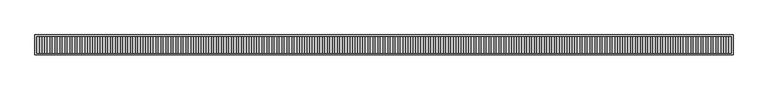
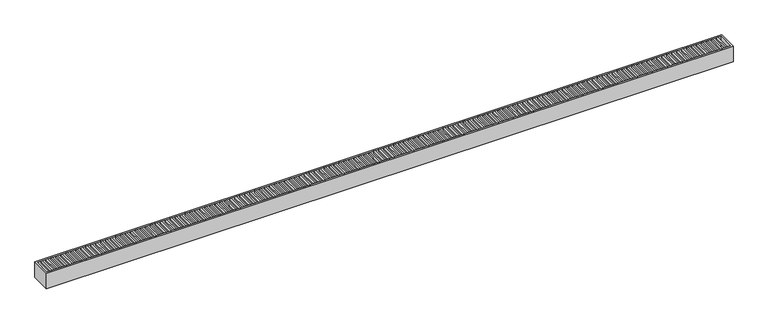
"""IFC4 building model written with IfcOpenShell, lengths in millimetres: flow terminal geometry, ARQ-RE-EX-Ace : L=8.36m."""

from ifc_helpers import new_model, si_unit, frame, origin, place, context, project, spatial, polyline, outline, extrude, source, transform, mapped, element, save


def flow_terminal_b1aadda9(model_context):
    return source(origin(), model_context, "Body", "SweptSolid", [
        extrude(outline(polyline([(4059.5588235, 100.0), (4059.5588235, -100.0), (4039.5588235, -100.0), (4039.5588235, 100.0), (4059.5588235, 100.0)])), frame((0.0, 0.0, -20.0), z_axis=(0.0, 0.0, 1.0), x_axis=(1.0, 0.0, 0.0)), (0.0, 0.0, 1.0), 20.0),
        extrude(outline(polyline([(3999.1176471, 100.0), (3999.1176471, -100.0), (3979.1176471, -100.0), (3979.1176471, 100.0), (3999.1176471, 100.0)])), frame((0.0, 0.0, -20.0), z_axis=(0.0, 0.0, 1.0), x_axis=(1.0, 0.0, 0.0)), (0.0, 0.0, 1.0), 20.0),
        extrude(outline(polyline([(3938.6764706, 100.0), (3938.6764706, -100.0), (3918.6764706, -100.0), (3918.6764706, 100.0), (3938.6764706, 100.0)])), frame((0.0, 0.0, -20.0), z_axis=(0.0, 0.0, 1.0), x_axis=(1.0, 0.0, 0.0)), (0.0, 0.0, 1.0), 20.0),
        extrude(outline(polyline([(3878.2352941, 100.0), (3878.2352941, -100.0), (3858.2352941, -100.0), (3858.2352941, 100.0), (3878.2352941, 100.0)])), frame((0.0, 0.0, -20.0), z_axis=(0.0, 0.0, 1.0), x_axis=(1.0, 0.0, 0.0)), (0.0, 0.0, 1.0), 20.0),
        extrude(outline(polyline([(3817.7941176, 100.0), (3817.7941176, -100.0), (3797.7941176, -100.0), (3797.7941176, 100.0), (3817.7941176, 100.0)])), frame((0.0, 0.0, -20.0), z_axis=(0.0, 0.0, 1.0), x_axis=(1.0, 0.0, 0.0)), (0.0, 0.0, 1.0), 20.0),
        extrude(outline(polyline([(3757.3529412, 100.0), (3757.3529412, -100.0), (3737.3529412, -100.0), (3737.3529412, 100.0), (3757.3529412, 100.0)])), frame((0.0, 0.0, -20.0), z_axis=(0.0, 0.0, 1.0), x_axis=(1.0, 0.0, 0.0)), (0.0, 0.0, 1.0), 20.0),
        extrude(outline(polyline([(3696.9117647, 100.0), (3696.9117647, -100.0), (3676.9117647, -100.0), (3676.9117647, 100.0), (3696.9117647, 100.0)])), frame((0.0, 0.0, -20.0), z_axis=(0.0, 0.0, 1.0), x_axis=(1.0, 0.0, 0.0)), (0.0, 0.0, 1.0), 20.0),
        extrude(outline(polyline([(3636.4705882, 100.0), (3636.4705882, -100.0), (3616.4705882, -100.0), (3616.4705882, 100.0), (3636.4705882, 100.0)])), frame((0.0, 0.0, -20.0), z_axis=(0.0, 0.0, 1.0), x_axis=(1.0, 0.0, 0.0)), (0.0, 0.0, 1.0), 20.0),
        extrude(outline(polyline([(3576.0294118, 100.0), (3576.0294118, -100.0), (3556.0294118, -100.0), (3556.0294118, 100.0), (3576.0294118, 100.0)])), frame((0.0, 0.0, -20.0), z_axis=(0.0, 0.0, 1.0), x_axis=(1.0, 0.0, 0.0)), (0.0, 0.0, 1.0), 20.0),
        extrude(outline(polyline([(3515.5882353, 100.0), (3515.5882353, -100.0), (3495.5882353, -100.0), (3495.5882353, 100.0), (3515.5882353, 100.0)])), frame((0.0, 0.0, -20.0), z_axis=(0.0, 0.0, 1.0), x_axis=(1.0, 0.0, 0.0)), (0.0, 0.0, 1.0), 20.0),
        extrude(outline(polyline([(3455.1470588, 100.0), (3455.1470588, -100.0), (3435.1470588, -100.0), (3435.1470588, 100.0), (3455.1470588, 100.0)])), frame((0.0, 0.0, -20.0), z_axis=(0.0, 0.0, 1.0), x_axis=(1.0, 0.0, 0.0)), (0.0, 0.0, 1.0), 20.0),
        extrude(outline(polyline([(3394.7058824, 100.0), (3394.7058824, -100.0), (3374.7058824, -100.0), (3374.7058824, 100.0), (3394.7058824, 100.0)])), frame((0.0, 0.0, -20.0), z_axis=(0.0, 0.0, 1.0), x_axis=(1.0, 0.0, 0.0)), (0.0, 0.0, 1.0), 20.0),
        extrude(outline(polyline([(3334.2647059, 100.0), (3334.2647059, -100.0), (3314.2647059, -100.0), (3314.2647059, 100.0), (3334.2647059, 100.0)])), frame((0.0, 0.0, -20.0), z_axis=(0.0, 0.0, 1.0), x_axis=(1.0, 0.0, 0.0)), (0.0, 0.0, 1.0), 20.0),
        extrude(outline(polyline([(3273.8235294, 100.0), (3273.8235294, -100.0), (3253.8235294, -100.0), (3253.8235294, 100.0), (3273.8235294, 100.0)])), frame((0.0, 0.0, -20.0), z_axis=(0.0, 0.0, 1.0), x_axis=(1.0, 0.0, 0.0)), (0.0, 0.0, 1.0), 20.0),
        extrude(outline(polyline([(3213.3823529, 100.0), (3213.3823529, -100.0), (3193.3823529, -100.0), (3193.3823529, 100.0), (3213.3823529, 100.0)])), frame((0.0, 0.0, -20.0), z_axis=(0.0, 0.0, 1.0), x_axis=(1.0, 0.0, 0.0)), (0.0, 0.0, 1.0), 20.0),
        extrude(outline(polyline([(3152.9411765, 100.0), (3152.9411765, -100.0), (3132.9411765, -100.0), (3132.9411765, 100.0), (3152.9411765, 100.0)])), frame((0.0, 0.0, -20.0), z_axis=(0.0, 0.0, 1.0), x_axis=(1.0, 0.0, 0.0)), (0.0, 0.0, 1.0), 20.0),
        extrude(outline(polyline([(3092.5, 100.0), (3092.5, -100.0), (3072.5, -100.0), (3072.5, 100.0), (3092.5, 100.0)])), frame((0.0, 0.0, -20.0), z_axis=(0.0, 0.0, 1.0), x_axis=(1.0, 0.0, 0.0)), (0.0, 0.0, 1.0), 20.0),
        extrude(outline(polyline([(3032.0588235, 100.0), (3032.0588235, -100.0), (3012.0588235, -100.0), (3012.0588235, 100.0), (3032.0588235, 100.0)])), frame((0.0, 0.0, -20.0), z_axis=(0.0, 0.0, 1.0), x_axis=(1.0, 0.0, 0.0)), (0.0, 0.0, 1.0), 20.0),
        extrude(outline(polyline([(2971.6176471, 100.0), (2971.6176471, -100.0), (2951.6176471, -100.0), (2951.6176471, 100.0), (2971.6176471, 100.0)])), frame((0.0, 0.0, -20.0), z_axis=(0.0, 0.0, 1.0), x_axis=(1.0, 0.0, 0.0)), (0.0, 0.0, 1.0), 20.0),
        extrude(outline(polyline([(2911.1764706, 100.0), (2911.1764706, -100.0), (2891.1764706, -100.0), (2891.1764706, 100.0), (2911.1764706, 100.0)])), frame((0.0, 0.0, -20.0), z_axis=(0.0, 0.0, 1.0), x_axis=(1.0, 0.0, 0.0)), (0.0, 0.0, 1.0), 20.0),
        extrude(outline(polyline([(2850.7352941, 100.0), (2850.7352941, -100.0), (2830.7352941, -100.0), (2830.7352941, 100.0), (2850.7352941, 100.0)])), frame((0.0, 0.0, -20.0), z_axis=(0.0, 0.0, 1.0), x_axis=(1.0, 0.0, 0.0)), (0.0, 0.0, 1.0), 20.0),
        extrude(outline(polyline([(2790.2941176, 100.0), (2790.2941176, -100.0), (2770.2941176, -100.0), (2770.2941176, 100.0), (2790.2941176, 100.0)])), frame((0.0, 0.0, -20.0), z_axis=(0.0, 0.0, 1.0), x_axis=(1.0, 0.0, 0.0)), (0.0, 0.0, 1.0), 20.0),
        extrude(outline(polyline([(2729.8529412, 100.0), (2729.8529412, -100.0), (2709.8529412, -100.0), (2709.8529412, 100.0), (2729.8529412, 100.0)])), frame((0.0, 0.0, -20.0), z_axis=(0.0, 0.0, 1.0), x_axis=(1.0, 0.0, 0.0)), (0.0, 0.0, 1.0), 20.0),
        extrude(outline(polyline([(2669.4117647, 100.0), (2669.4117647, -100.0), (2649.4117647, -100.0), (2649.4117647, 100.0), (2669.4117647, 100.0)])), frame((0.0, 0.0, -20.0), z_axis=(0.0, 0.0, 1.0), x_axis=(1.0, 0.0, 0.0)), (0.0, 0.0, 1.0), 20.0),
        extrude(outline(polyline([(2608.9705882, 100.0), (2608.9705882, -100.0), (2588.9705882, -100.0), (2588.9705882, 100.0), (2608.9705882, 100.0)])), frame((0.0, 0.0, -20.0), z_axis=(0.0, 0.0, 1.0), x_axis=(1.0, 0.0, 0.0)), (0.0, 0.0, 1.0), 20.0),
        extrude(outline(polyline([(2548.5294118, 100.0), (2548.5294118, -100.0), (2528.5294118, -100.0), (2528.5294118, 100.0), (2548.5294118, 100.0)])), frame((0.0, 0.0, -20.0), z_axis=(0.0, 0.0, 1.0), x_axis=(1.0, 0.0, 0.0)), (0.0, 0.0, 1.0), 20.0),
        extrude(outline(polyline([(2488.0882353, 100.0), (2488.0882353, -100.0), (2468.0882353, -100.0), (2468.0882353, 100.0), (2488.0882353, 100.0)])), frame((0.0, 0.0, -20.0), z_axis=(0.0, 0.0, 1.0), x_axis=(1.0, 0.0, 0.0)), (0.0, 0.0, 1.0), 20.0),
        extrude(outline(polyline([(2427.6470588, 100.0), (2427.6470588, -100.0), (2407.6470588, -100.0), (2407.6470588, 100.0), (2427.6470588, 100.0)])), frame((0.0, 0.0, -20.0), z_axis=(0.0, 0.0, 1.0), x_axis=(1.0, 0.0, 0.0)), (0.0, 0.0, 1.0), 20.0),
        extrude(outline(polyline([(2367.2058824, 100.0), (2367.2058824, -100.0), (2347.2058824, -100.0), (2347.2058824, 100.0), (2367.2058824, 100.0)])), frame((0.0, 0.0, -20.0), z_axis=(0.0, 0.0, 1.0), x_axis=(1.0, 0.0, 0.0)), (0.0, 0.0, 1.0), 20.0),
        extrude(outline(polyline([(2306.7647059, 100.0), (2306.7647059, -100.0), (2286.7647059, -100.0), (2286.7647059, 100.0), (2306.7647059, 100.0)])), frame((0.0, 0.0, -20.0), z_axis=(0.0, 0.0, 1.0), x_axis=(1.0, 0.0, 0.0)), (0.0, 0.0, 1.0), 20.0),
        extrude(outline(polyline([(2246.3235294, 100.0), (2246.3235294, -100.0), (2226.3235294, -100.0), (2226.3235294, 100.0), (2246.3235294, 100.0)])), frame((0.0, 0.0, -20.0), z_axis=(0.0, 0.0, 1.0), x_axis=(1.0, 0.0, 0.0)), (0.0, 0.0, 1.0), 20.0),
        extrude(outline(polyline([(2185.8823529, 100.0), (2185.8823529, -100.0), (2165.8823529, -100.0), (2165.8823529, 100.0), (2185.8823529, 100.0)])), frame((0.0, 0.0, -20.0), z_axis=(0.0, 0.0, 1.0), x_axis=(1.0, 0.0, 0.0)), (0.0, 0.0, 1.0), 20.0),
        extrude(outline(polyline([(2125.4411765, 100.0), (2125.4411765, -100.0), (2105.4411765, -100.0), (2105.4411765, 100.0), (2125.4411765, 100.0)])), frame((0.0, 0.0, -20.0), z_axis=(0.0, 0.0, 1.0), x_axis=(1.0, 0.0, 0.0)), (0.0, 0.0, 1.0), 20.0),
        extrude(outline(polyline([(2065.0, 100.0), (2065.0, -100.0), (2045.0, -100.0), (2045.0, 100.0), (2065.0, 100.0)])), frame((0.0, 0.0, -20.0), z_axis=(0.0, 0.0, 1.0), x_axis=(1.0, 0.0, 0.0)), (0.0, 0.0, 1.0), 20.0),
        extrude(outline(polyline([(2004.5588235, 100.0), (2004.5588235, -100.0), (1984.5588235, -100.0), (1984.5588235, 100.0), (2004.5588235, 100.0)])), frame((0.0, 0.0, -20.0), z_axis=(0.0, 0.0, 1.0), x_axis=(1.0, 0.0, 0.0)), (0.0, 0.0, 1.0), 20.0),
        extrude(outline(polyline([(1944.1176471, 100.0), (1944.1176471, -100.0), (1924.1176471, -100.0), (1924.1176471, 100.0), (1944.1176471, 100.0)])), frame((0.0, 0.0, -20.0), z_axis=(0.0, 0.0, 1.0), x_axis=(1.0, 0.0, 0.0)), (0.0, 0.0, 1.0), 20.0),
        extrude(outline(polyline([(1883.6764706, 100.0), (1883.6764706, -100.0), (1863.6764706, -100.0), (1863.6764706, 100.0), (1883.6764706, 100.0)])), frame((0.0, 0.0, -20.0), z_axis=(0.0, 0.0, 1.0), x_axis=(1.0, 0.0, 0.0)), (0.0, 0.0, 1.0), 20.0),
        extrude(outline(polyline([(1823.2352941, 100.0), (1823.2352941, -100.0), (1803.2352941, -100.0), (1803.2352941, 100.0), (1823.2352941, 100.0)])), frame((0.0, 0.0, -20.0), z_axis=(0.0, 0.0, 1.0), x_axis=(1.0, 0.0, 0.0)), (0.0, 0.0, 1.0), 20.0),
        extrude(outline(polyline([(1762.7941176, 100.0), (1762.7941176, -100.0), (1742.7941176, -100.0), (1742.7941176, 100.0), (1762.7941176, 100.0)])), frame((0.0, 0.0, -20.0), z_axis=(0.0, 0.0, 1.0), x_axis=(1.0, 0.0, 0.0)), (0.0, 0.0, 1.0), 20.0),
        extrude(outline(polyline([(1702.3529412, 100.0), (1702.3529412, -100.0), (1682.3529412, -100.0), (1682.3529412, 100.0), (1702.3529412, 100.0)])), frame((0.0, 0.0, -20.0), z_axis=(0.0, 0.0, 1.0), x_axis=(1.0, 0.0, 0.0)), (0.0, 0.0, 1.0), 20.0),
        extrude(outline(polyline([(1641.9117647, 100.0), (1641.9117647, -100.0), (1621.9117647, -100.0), (1621.9117647, 100.0), (1641.9117647, 100.0)])), frame((0.0, 0.0, -20.0), z_axis=(0.0, 0.0, 1.0), x_axis=(1.0, 0.0, 0.0)), (0.0, 0.0, 1.0), 20.0),
        extrude(outline(polyline([(1581.4705882, 100.0), (1581.4705882, -100.0), (1561.4705882, -100.0), (1561.4705882, 100.0), (1581.4705882, 100.0)])), frame((0.0, 0.0, -20.0), z_axis=(0.0, 0.0, 1.0), x_axis=(1.0, 0.0, 0.0)), (0.0, 0.0, 1.0), 20.0),
        extrude(outline(polyline([(1521.0294118, 100.0), (1521.0294118, -100.0), (1501.0294118, -100.0), (1501.0294118, 100.0), (1521.0294118, 100.0)])), frame((0.0, 0.0, -20.0), z_axis=(0.0, 0.0, 1.0), x_axis=(1.0, 0.0, 0.0)), (0.0, 0.0, 1.0), 20.0),
        extrude(outline(polyline([(1460.5882353, 100.0), (1460.5882353, -100.0), (1440.5882353, -100.0), (1440.5882353, 100.0), (1460.5882353, 100.0)])), frame((0.0, 0.0, -20.0), z_axis=(0.0, 0.0, 1.0), x_axis=(1.0, 0.0, 0.0)), (0.0, 0.0, 1.0), 20.0),
        extrude(outline(polyline([(1400.1470588, 100.0), (1400.1470588, -100.0), (1380.1470588, -100.0), (1380.1470588, 100.0), (1400.1470588, 100.0)])), frame((0.0, 0.0, -20.0), z_axis=(0.0, 0.0, 1.0), x_axis=(1.0, 0.0, 0.0)), (0.0, 0.0, 1.0), 20.0),
        extrude(outline(polyline([(1339.7058824, 100.0), (1339.7058824, -100.0), (1319.7058824, -100.0), (1319.7058824, 100.0), (1339.7058824, 100.0)])), frame((0.0, 0.0, -20.0), z_axis=(0.0, 0.0, 1.0), x_axis=(1.0, 0.0, 0.0)), (0.0, 0.0, 1.0), 20.0),
        extrude(outline(polyline([(1279.2647059, 100.0), (1279.2647059, -100.0), (1259.2647059, -100.0), (1259.2647059, 100.0), (1279.2647059, 100.0)])), frame((0.0, 0.0, -20.0), z_axis=(0.0, 0.0, 1.0), x_axis=(1.0, 0.0, 0.0)), (0.0, 0.0, 1.0), 20.0),
        extrude(outline(polyline([(1218.8235294, 100.0), (1218.8235294, -100.0), (1198.8235294, -100.0), (1198.8235294, 100.0), (1218.8235294, 100.0)])), frame((0.0, 0.0, -20.0), z_axis=(0.0, 0.0, 1.0), x_axis=(1.0, 0.0, 0.0)), (0.0, 0.0, 1.0), 20.0),
        extrude(outline(polyline([(1158.3823529, 100.0), (1158.3823529, -100.0), (1138.3823529, -100.0), (1138.3823529, 100.0), (1158.3823529, 100.0)])), frame((0.0, 0.0, -20.0), z_axis=(0.0, 0.0, 1.0), x_axis=(1.0, 0.0, 0.0)), (0.0, 0.0, 1.0), 20.0),
        extrude(outline(polyline([(1097.9411765, 100.0), (1097.9411765, -100.0), (1077.9411765, -100.0), (1077.9411765, 100.0), (1097.9411765, 100.0)])), frame((0.0, 0.0, -20.0), z_axis=(0.0, 0.0, 1.0), x_axis=(1.0, 0.0, 0.0)), (0.0, 0.0, 1.0), 20.0),
        extrude(outline(polyline([(1037.5, 100.0), (1037.5, -100.0), (1017.5, -100.0), (1017.5, 100.0), (1037.5, 100.0)])), frame((0.0, 0.0, -20.0), z_axis=(0.0, 0.0, 1.0), x_axis=(1.0, 0.0, 0.0)), (0.0, 0.0, 1.0), 20.0),
        extrude(outline(polyline([(977.0588235, 100.0), (977.0588235, -100.0), (957.0588235, -100.0), (957.0588235, 100.0), (977.0588235, 100.0)])), frame((0.0, 0.0, -20.0), z_axis=(0.0, 0.0, 1.0), x_axis=(1.0, 0.0, 0.0)), (0.0, 0.0, 1.0), 20.0),
        extrude(outline(polyline([(916.6176471, 100.0), (916.6176471, -100.0), (896.6176471, -100.0), (896.6176471, 100.0), (916.6176471, 100.0)])), frame((0.0, 0.0, -20.0), z_axis=(0.0, 0.0, 1.0), x_axis=(1.0, 0.0, 0.0)), (0.0, 0.0, 1.0), 20.0),
        extrude(outline(polyline([(856.1764706, 100.0), (856.1764706, -100.0), (836.1764706, -100.0), (836.1764706, 100.0), (856.1764706, 100.0)])), frame((0.0, 0.0, -20.0), z_axis=(0.0, 0.0, 1.0), x_axis=(1.0, 0.0, 0.0)), (0.0, 0.0, 1.0), 20.0),
        extrude(outline(polyline([(795.7352941, 100.0), (795.7352941, -100.0), (775.7352941, -100.0), (775.7352941, 100.0), (795.7352941, 100.0)])), frame((0.0, 0.0, -20.0), z_axis=(0.0, 0.0, 1.0), x_axis=(1.0, 0.0, 0.0)), (0.0, 0.0, 1.0), 20.0),
        extrude(outline(polyline([(735.2941176, 100.0), (735.2941176, -100.0), (715.2941176, -100.0), (715.2941176, 100.0), (735.2941176, 100.0)])), frame((0.0, 0.0, -20.0), z_axis=(0.0, 0.0, 1.0), x_axis=(1.0, 0.0, 0.0)), (0.0, 0.0, 1.0), 20.0),
        extrude(outline(polyline([(674.8529412, 100.0), (674.8529412, -100.0), (654.8529412, -100.0), (654.8529412, 100.0), (674.8529412, 100.0)])), frame((0.0, 0.0, -20.0), z_axis=(0.0, 0.0, 1.0), x_axis=(1.0, 0.0, 0.0)), (0.0, 0.0, 1.0), 20.0),
        extrude(outline(polyline([(614.4117647, 100.0), (614.4117647, -100.0), (594.4117647, -100.0), (594.4117647, 100.0), (614.4117647, 100.0)])), frame((0.0, 0.0, -20.0), z_axis=(0.0, 0.0, 1.0), x_axis=(1.0, 0.0, 0.0)), (0.0, 0.0, 1.0), 20.0),
        extrude(outline(polyline([(553.9705882, 100.0), (553.9705882, -100.0), (533.9705882, -100.0), (533.9705882, 100.0), (553.9705882, 100.0)])), frame((0.0, 0.0, -20.0), z_axis=(0.0, 0.0, 1.0), x_axis=(1.0, 0.0, 0.0)), (0.0, 0.0, 1.0), 20.0),
        extrude(outline(polyline([(493.5294118, 100.0), (493.5294118, -100.0), (473.5294118, -100.0), (473.5294118, 100.0), (493.5294118, 100.0)])), frame((0.0, 0.0, -20.0), z_axis=(0.0, 0.0, 1.0), x_axis=(1.0, 0.0, 0.0)), (0.0, 0.0, 1.0), 20.0),
        extrude(outline(polyline([(433.0882353, 100.0), (433.0882353, -100.0), (413.0882353, -100.0), (413.0882353, 100.0), (433.0882353, 100.0)])), frame((0.0, 0.0, -20.0), z_axis=(0.0, 0.0, 1.0), x_axis=(1.0, 0.0, 0.0)), (0.0, 0.0, 1.0), 20.0),
        extrude(outline(polyline([(372.6470588, 100.0), (372.6470588, -100.0), (352.6470588, -100.0), (352.6470588, 100.0), (372.6470588, 100.0)])), frame((0.0, 0.0, -20.0), z_axis=(0.0, 0.0, 1.0), x_axis=(1.0, 0.0, 0.0)), (0.0, 0.0, 1.0), 20.0),
        extrude(outline(polyline([(312.2058824, 100.0), (312.2058824, -100.0), (292.2058824, -100.0), (292.2058824, 100.0), (312.2058824, 100.0)])), frame((0.0, 0.0, -20.0), z_axis=(0.0, 0.0, 1.0), x_axis=(1.0, 0.0, 0.0)), (0.0, 0.0, 1.0), 20.0),
        extrude(outline(polyline([(251.7647059, 100.0), (251.7647059, -100.0), (231.7647059, -100.0), (231.7647059, 100.0), (251.7647059, 100.0)])), frame((0.0, 0.0, -20.0), z_axis=(0.0, 0.0, 1.0), x_axis=(1.0, 0.0, 0.0)), (0.0, 0.0, 1.0), 20.0),
        extrude(outline(polyline([(191.3235294, 100.0), (191.3235294, -100.0), (171.3235294, -100.0), (171.3235294, 100.0), (191.3235294, 100.0)])), frame((0.0, 0.0, -20.0), z_axis=(0.0, 0.0, 1.0), x_axis=(1.0, 0.0, 0.0)), (0.0, 0.0, 1.0), 20.0),
        extrude(outline(polyline([(130.8823529, 100.0), (130.8823529, -100.0), (110.8823529, -100.0), (110.8823529, 100.0), (130.8823529, 100.0)])), frame((0.0, 0.0, -20.0), z_axis=(0.0, 0.0, 1.0), x_axis=(1.0, 0.0, 0.0)), (0.0, 0.0, 1.0), 20.0),
        extrude(outline(polyline([(70.4411765, 100.0), (70.4411765, -100.0), (50.4411765, -100.0), (50.4411765, 100.0), (70.4411765, 100.0)])), frame((0.0, 0.0, -20.0), z_axis=(0.0, 0.0, 1.0), x_axis=(1.0, 0.0, 0.0)), (0.0, 0.0, 1.0), 20.0),
        extrude(outline(polyline([(10.0, 100.0), (10.0, -100.0), (-10.0, -100.0), (-10.0, 100.0), (10.0, 100.0)])), frame((0.0, 0.0, -20.0), z_axis=(0.0, 0.0, 1.0), x_axis=(1.0, 0.0, 0.0)), (0.0, 0.0, 1.0), 20.0),
        extrude(outline(polyline([(-50.4411765, 100.0), (-50.4411765, -100.0), (-70.4411765, -100.0), (-70.4411765, 100.0), (-50.4411765, 100.0)])), frame((0.0, 0.0, -20.0), z_axis=(0.0, 0.0, 1.0), x_axis=(1.0, 0.0, 0.0)), (0.0, 0.0, 1.0), 20.0),
        extrude(outline(polyline([(-110.8823529, 100.0), (-110.8823529, -100.0), (-130.8823529, -100.0), (-130.8823529, 100.0), (-110.8823529, 100.0)])), frame((0.0, 0.0, -20.0), z_axis=(0.0, 0.0, 1.0), x_axis=(1.0, 0.0, 0.0)), (0.0, 0.0, 1.0), 20.0),
        extrude(outline(polyline([(-171.3235294, 100.0), (-171.3235294, -100.0), (-191.3235294, -100.0), (-191.3235294, 100.0), (-171.3235294, 100.0)])), frame((0.0, 0.0, -20.0), z_axis=(0.0, 0.0, 1.0), x_axis=(1.0, 0.0, 0.0)), (0.0, 0.0, 1.0), 20.0),
        extrude(outline(polyline([(-231.7647059, 100.0), (-231.7647059, -100.0), (-251.7647059, -100.0), (-251.7647059, 100.0), (-231.7647059, 100.0)])), frame((0.0, 0.0, -20.0), z_axis=(0.0, 0.0, 1.0), x_axis=(1.0, 0.0, 0.0)), (0.0, 0.0, 1.0), 20.0),
        extrude(outline(polyline([(-292.2058824, 100.0), (-292.2058824, -100.0), (-312.2058824, -100.0), (-312.2058824, 100.0), (-292.2058824, 100.0)])), frame((0.0, 0.0, -20.0), z_axis=(0.0, 0.0, 1.0), x_axis=(1.0, 0.0, 0.0)), (0.0, 0.0, 1.0), 20.0),
        extrude(outline(polyline([(-352.6470588, 100.0), (-352.6470588, -100.0), (-372.6470588, -100.0), (-372.6470588, 100.0), (-352.6470588, 100.0)])), frame((0.0, 0.0, -20.0), z_axis=(0.0, 0.0, 1.0), x_axis=(1.0, 0.0, 0.0)), (0.0, 0.0, 1.0), 20.0),
        extrude(outline(polyline([(-413.0882353, 100.0), (-413.0882353, -100.0), (-433.0882353, -100.0), (-433.0882353, 100.0), (-413.0882353, 100.0)])), frame((0.0, 0.0, -20.0), z_axis=(0.0, 0.0, 1.0), x_axis=(1.0, 0.0, 0.0)), (0.0, 0.0, 1.0), 20.0),
        extrude(outline(polyline([(-473.5294118, 100.0), (-473.5294118, -100.0), (-493.5294118, -100.0), (-493.5294118, 100.0), (-473.5294118, 100.0)])), frame((0.0, 0.0, -20.0), z_axis=(0.0, 0.0, 1.0), x_axis=(1.0, 0.0, 0.0)), (0.0, 0.0, 1.0), 20.0),
        extrude(outline(polyline([(-533.9705882, 100.0), (-533.9705882, -100.0), (-553.9705882, -100.0), (-553.9705882, 100.0), (-533.9705882, 100.0)])), frame((0.0, 0.0, -20.0), z_axis=(0.0, 0.0, 1.0), x_axis=(1.0, 0.0, 0.0)), (0.0, 0.0, 1.0), 20.0),
        extrude(outline(polyline([(-594.4117647, 100.0), (-594.4117647, -100.0), (-614.4117647, -100.0), (-614.4117647, 100.0), (-594.4117647, 100.0)])), frame((0.0, 0.0, -20.0), z_axis=(0.0, 0.0, 1.0), x_axis=(1.0, 0.0, 0.0)), (0.0, 0.0, 1.0), 20.0),
        extrude(outline(polyline([(-654.8529412, 100.0), (-654.8529412, -100.0), (-674.8529412, -100.0), (-674.8529412, 100.0), (-654.8529412, 100.0)])), frame((0.0, 0.0, -20.0), z_axis=(0.0, 0.0, 1.0), x_axis=(1.0, 0.0, 0.0)), (0.0, 0.0, 1.0), 20.0),
        extrude(outline(polyline([(-715.2941176, 100.0), (-715.2941176, -100.0), (-735.2941176, -100.0), (-735.2941176, 100.0), (-715.2941176, 100.0)])), frame((0.0, 0.0, -20.0), z_axis=(0.0, 0.0, 1.0), x_axis=(1.0, 0.0, 0.0)), (0.0, 0.0, 1.0), 20.0),
        extrude(outline(polyline([(-775.7352941, 100.0), (-775.7352941, -100.0), (-795.7352941, -100.0), (-795.7352941, 100.0), (-775.7352941, 100.0)])), frame((0.0, 0.0, -20.0), z_axis=(0.0, 0.0, 1.0), x_axis=(1.0, 0.0, 0.0)), (0.0, 0.0, 1.0), 20.0),
        extrude(outline(polyline([(-836.1764706, 100.0), (-836.1764706, -100.0), (-856.1764706, -100.0), (-856.1764706, 100.0), (-836.1764706, 100.0)])), frame((0.0, 0.0, -20.0), z_axis=(0.0, 0.0, 1.0), x_axis=(1.0, 0.0, 0.0)), (0.0, 0.0, 1.0), 20.0),
        extrude(outline(polyline([(-896.6176471, 100.0), (-896.6176471, -100.0), (-916.6176471, -100.0), (-916.6176471, 100.0), (-896.6176471, 100.0)])), frame((0.0, 0.0, -20.0), z_axis=(0.0, 0.0, 1.0), x_axis=(1.0, 0.0, 0.0)), (0.0, 0.0, 1.0), 20.0),
        extrude(outline(polyline([(-957.0588235, 100.0), (-957.0588235, -100.0), (-977.0588235, -100.0), (-977.0588235, 100.0), (-957.0588235, 100.0)])), frame((0.0, 0.0, -20.0), z_axis=(0.0, 0.0, 1.0), x_axis=(1.0, 0.0, 0.0)), (0.0, 0.0, 1.0), 20.0),
        extrude(outline(polyline([(-1017.5, 100.0), (-1017.5, -100.0), (-1037.5, -100.0), (-1037.5, 100.0), (-1017.5, 100.0)])), frame((0.0, 0.0, -20.0), z_axis=(0.0, 0.0, 1.0), x_axis=(1.0, 0.0, 0.0)), (0.0, 0.0, 1.0), 20.0),
        extrude(outline(polyline([(-1077.9411765, 100.0), (-1077.9411765, -100.0), (-1097.9411765, -100.0), (-1097.9411765, 100.0), (-1077.9411765, 100.0)])), frame((0.0, 0.0, -20.0), z_axis=(0.0, 0.0, 1.0), x_axis=(1.0, 0.0, 0.0)), (0.0, 0.0, 1.0), 20.0),
        extrude(outline(polyline([(-1138.3823529, 100.0), (-1138.3823529, -100.0), (-1158.3823529, -100.0), (-1158.3823529, 100.0), (-1138.3823529, 100.0)])), frame((0.0, 0.0, -20.0), z_axis=(0.0, 0.0, 1.0), x_axis=(1.0, 0.0, 0.0)), (0.0, 0.0, 1.0), 20.0),
        extrude(outline(polyline([(-1198.8235294, 100.0), (-1198.8235294, -100.0), (-1218.8235294, -100.0), (-1218.8235294, 100.0), (-1198.8235294, 100.0)])), frame((0.0, 0.0, -20.0), z_axis=(0.0, 0.0, 1.0), x_axis=(1.0, 0.0, 0.0)), (0.0, 0.0, 1.0), 20.0),
        extrude(outline(polyline([(-1259.2647059, 100.0), (-1259.2647059, -100.0), (-1279.2647059, -100.0), (-1279.2647059, 100.0), (-1259.2647059, 100.0)])), frame((0.0, 0.0, -20.0), z_axis=(0.0, 0.0, 1.0), x_axis=(1.0, 0.0, 0.0)), (0.0, 0.0, 1.0), 20.0),
        extrude(outline(polyline([(-1319.7058824, 100.0), (-1319.7058824, -100.0), (-1339.7058824, -100.0), (-1339.7058824, 100.0), (-1319.7058824, 100.0)])), frame((0.0, 0.0, -20.0), z_axis=(0.0, 0.0, 1.0), x_axis=(1.0, 0.0, 0.0)), (0.0, 0.0, 1.0), 20.0),
        extrude(outline(polyline([(-1380.1470588, 100.0), (-1380.1470588, -100.0), (-1400.1470588, -100.0), (-1400.1470588, 100.0), (-1380.1470588, 100.0)])), frame((0.0, 0.0, -20.0), z_axis=(0.0, 0.0, 1.0), x_axis=(1.0, 0.0, 0.0)), (0.0, 0.0, 1.0), 20.0),
        extrude(outline(polyline([(-1440.5882353, 100.0), (-1440.5882353, -100.0), (-1460.5882353, -100.0), (-1460.5882353, 100.0), (-1440.5882353, 100.0)])), frame((0.0, 0.0, -20.0), z_axis=(0.0, 0.0, 1.0), x_axis=(1.0, 0.0, 0.0)), (0.0, 0.0, 1.0), 20.0),
        extrude(outline(polyline([(-1501.0294118, 100.0), (-1501.0294118, -100.0), (-1521.0294118, -100.0), (-1521.0294118, 100.0), (-1501.0294118, 100.0)])), frame((0.0, 0.0, -20.0), z_axis=(0.0, 0.0, 1.0), x_axis=(1.0, 0.0, 0.0)), (0.0, 0.0, 1.0), 20.0),
        extrude(outline(polyline([(-1561.4705882, 100.0), (-1561.4705882, -100.0), (-1581.4705882, -100.0), (-1581.4705882, 100.0), (-1561.4705882, 100.0)])), frame((0.0, 0.0, -20.0), z_axis=(0.0, 0.0, 1.0), x_axis=(1.0, 0.0, 0.0)), (0.0, 0.0, 1.0), 20.0),
        extrude(outline(polyline([(-1621.9117647, 100.0), (-1621.9117647, -100.0), (-1641.9117647, -100.0), (-1641.9117647, 100.0), (-1621.9117647, 100.0)])), frame((0.0, 0.0, -20.0), z_axis=(0.0, 0.0, 1.0), x_axis=(1.0, 0.0, 0.0)), (0.0, 0.0, 1.0), 20.0),
        extrude(outline(polyline([(-1682.3529412, 100.0), (-1682.3529412, -100.0), (-1702.3529412, -100.0), (-1702.3529412, 100.0), (-1682.3529412, 100.0)])), frame((0.0, 0.0, -20.0), z_axis=(0.0, 0.0, 1.0), x_axis=(1.0, 0.0, 0.0)), (0.0, 0.0, 1.0), 20.0),
        extrude(outline(polyline([(-1742.7941176, 100.0), (-1742.7941176, -100.0), (-1762.7941176, -100.0), (-1762.7941176, 100.0), (-1742.7941176, 100.0)])), frame((0.0, 0.0, -20.0), z_axis=(0.0, 0.0, 1.0), x_axis=(1.0, 0.0, 0.0)), (0.0, 0.0, 1.0), 20.0),
        extrude(outline(polyline([(-1803.2352941, 100.0), (-1803.2352941, -100.0), (-1823.2352941, -100.0), (-1823.2352941, 100.0), (-1803.2352941, 100.0)])), frame((0.0, 0.0, -20.0), z_axis=(0.0, 0.0, 1.0), x_axis=(1.0, 0.0, 0.0)), (0.0, 0.0, 1.0), 20.0),
        extrude(outline(polyline([(-1863.6764706, 100.0), (-1863.6764706, -100.0), (-1883.6764706, -100.0), (-1883.6764706, 100.0), (-1863.6764706, 100.0)])), frame((0.0, 0.0, -20.0), z_axis=(0.0, 0.0, 1.0), x_axis=(1.0, 0.0, 0.0)), (0.0, 0.0, 1.0), 20.0),
        extrude(outline(polyline([(-1924.1176471, 100.0), (-1924.1176471, -100.0), (-1944.1176471, -100.0), (-1944.1176471, 100.0), (-1924.1176471, 100.0)])), frame((0.0, 0.0, -20.0), z_axis=(0.0, 0.0, 1.0), x_axis=(1.0, 0.0, 0.0)), (0.0, 0.0, 1.0), 20.0),
        extrude(outline(polyline([(-1984.5588235, 100.0), (-1984.5588235, -100.0), (-2004.5588235, -100.0), (-2004.5588235, 100.0), (-1984.5588235, 100.0)])), frame((0.0, 0.0, -20.0), z_axis=(0.0, 0.0, 1.0), x_axis=(1.0, 0.0, 0.0)), (0.0, 0.0, 1.0), 20.0),
        extrude(outline(polyline([(-2045.0, 100.0), (-2045.0, -100.0), (-2065.0, -100.0), (-2065.0, 100.0), (-2045.0, 100.0)])), frame((0.0, 0.0, -20.0), z_axis=(0.0, 0.0, 1.0), x_axis=(1.0, 0.0, 0.0)), (0.0, 0.0, 1.0), 20.0),
        extrude(outline(polyline([(-2105.4411765, 100.0), (-2105.4411765, -100.0), (-2125.4411765, -100.0), (-2125.4411765, 100.0), (-2105.4411765, 100.0)])), frame((0.0, 0.0, -20.0), z_axis=(0.0, 0.0, 1.0), x_axis=(1.0, 0.0, 0.0)), (0.0, 0.0, 1.0), 20.0),
        extrude(outline(polyline([(-2165.8823529, 100.0), (-2165.8823529, -100.0), (-2185.8823529, -100.0), (-2185.8823529, 100.0), (-2165.8823529, 100.0)])), frame((0.0, 0.0, -20.0), z_axis=(0.0, 0.0, 1.0), x_axis=(1.0, 0.0, 0.0)), (0.0, 0.0, 1.0), 20.0),
        extrude(outline(polyline([(-2226.3235294, 100.0), (-2226.3235294, -100.0), (-2246.3235294, -100.0), (-2246.3235294, 100.0), (-2226.3235294, 100.0)])), frame((0.0, 0.0, -20.0), z_axis=(0.0, 0.0, 1.0), x_axis=(1.0, 0.0, 0.0)), (0.0, 0.0, 1.0), 20.0),
        extrude(outline(polyline([(-2286.7647059, 100.0), (-2286.7647059, -100.0), (-2306.7647059, -100.0), (-2306.7647059, 100.0), (-2286.7647059, 100.0)])), frame((0.0, 0.0, -20.0), z_axis=(0.0, 0.0, 1.0), x_axis=(1.0, 0.0, 0.0)), (0.0, 0.0, 1.0), 20.0),
        extrude(outline(polyline([(-2347.2058824, 100.0), (-2347.2058824, -100.0), (-2367.2058824, -100.0), (-2367.2058824, 100.0), (-2347.2058824, 100.0)])), frame((0.0, 0.0, -20.0), z_axis=(0.0, 0.0, 1.0), x_axis=(1.0, 0.0, 0.0)), (0.0, 0.0, 1.0), 20.0),
        extrude(outline(polyline([(-2407.6470588, 100.0), (-2407.6470588, -100.0), (-2427.6470588, -100.0), (-2427.6470588, 100.0), (-2407.6470588, 100.0)])), frame((0.0, 0.0, -20.0), z_axis=(0.0, 0.0, 1.0), x_axis=(1.0, 0.0, 0.0)), (0.0, 0.0, 1.0), 20.0),
        extrude(outline(polyline([(-2468.0882353, 100.0), (-2468.0882353, -100.0), (-2488.0882353, -100.0), (-2488.0882353, 100.0), (-2468.0882353, 100.0)])), frame((0.0, 0.0, -20.0), z_axis=(0.0, 0.0, 1.0), x_axis=(1.0, 0.0, 0.0)), (0.0, 0.0, 1.0), 20.0),
        extrude(outline(polyline([(-2528.5294118, 100.0), (-2528.5294118, -100.0), (-2548.5294118, -100.0), (-2548.5294118, 100.0), (-2528.5294118, 100.0)])), frame((0.0, 0.0, -20.0), z_axis=(0.0, 0.0, 1.0), x_axis=(1.0, 0.0, 0.0)), (0.0, 0.0, 1.0), 20.0),
        extrude(outline(polyline([(-2588.9705882, 100.0), (-2588.9705882, -100.0), (-2608.9705882, -100.0), (-2608.9705882, 100.0), (-2588.9705882, 100.0)])), frame((0.0, 0.0, -20.0), z_axis=(0.0, 0.0, 1.0), x_axis=(1.0, 0.0, 0.0)), (0.0, 0.0, 1.0), 20.0),
        extrude(outline(polyline([(-2649.4117647, 100.0), (-2649.4117647, -100.0), (-2669.4117647, -100.0), (-2669.4117647, 100.0), (-2649.4117647, 100.0)])), frame((0.0, 0.0, -20.0), z_axis=(0.0, 0.0, 1.0), x_axis=(1.0, 0.0, 0.0)), (0.0, 0.0, 1.0), 20.0),
        extrude(outline(polyline([(-2709.8529412, 100.0), (-2709.8529412, -100.0), (-2729.8529412, -100.0), (-2729.8529412, 100.0), (-2709.8529412, 100.0)])), frame((0.0, 0.0, -20.0), z_axis=(0.0, 0.0, 1.0), x_axis=(1.0, 0.0, 0.0)), (0.0, 0.0, 1.0), 20.0),
        extrude(outline(polyline([(-2770.2941176, 100.0), (-2770.2941176, -100.0), (-2790.2941176, -100.0), (-2790.2941176, 100.0), (-2770.2941176, 100.0)])), frame((0.0, 0.0, -20.0), z_axis=(0.0, 0.0, 1.0), x_axis=(1.0, 0.0, 0.0)), (0.0, 0.0, 1.0), 20.0),
        extrude(outline(polyline([(-2830.7352941, 100.0), (-2830.7352941, -100.0), (-2850.7352941, -100.0), (-2850.7352941, 100.0), (-2830.7352941, 100.0)])), frame((0.0, 0.0, -20.0), z_axis=(0.0, 0.0, 1.0), x_axis=(1.0, 0.0, 0.0)), (0.0, 0.0, 1.0), 20.0),
        extrude(outline(polyline([(-2891.1764706, 100.0), (-2891.1764706, -100.0), (-2911.1764706, -100.0), (-2911.1764706, 100.0), (-2891.1764706, 100.0)])), frame((0.0, 0.0, -20.0), z_axis=(0.0, 0.0, 1.0), x_axis=(1.0, 0.0, 0.0)), (0.0, 0.0, 1.0), 20.0),
        extrude(outline(polyline([(-2951.6176471, 100.0), (-2951.6176471, -100.0), (-2971.6176471, -100.0), (-2971.6176471, 100.0), (-2951.6176471, 100.0)])), frame((0.0, 0.0, -20.0), z_axis=(0.0, 0.0, 1.0), x_axis=(1.0, 0.0, 0.0)), (0.0, 0.0, 1.0), 20.0),
        extrude(outline(polyline([(-3012.0588235, 100.0), (-3012.0588235, -100.0), (-3032.0588235, -100.0), (-3032.0588235, 100.0), (-3012.0588235, 100.0)])), frame((0.0, 0.0, -20.0), z_axis=(0.0, 0.0, 1.0), x_axis=(1.0, 0.0, 0.0)), (0.0, 0.0, 1.0), 20.0),
        extrude(outline(polyline([(-3072.5, 100.0), (-3072.5, -100.0), (-3092.5, -100.0), (-3092.5, 100.0), (-3072.5, 100.0)])), frame((0.0, 0.0, -20.0), z_axis=(0.0, 0.0, 1.0), x_axis=(1.0, 0.0, 0.0)), (0.0, 0.0, 1.0), 20.0),
        extrude(outline(polyline([(-3132.9411765, 100.0), (-3132.9411765, -100.0), (-3152.9411765, -100.0), (-3152.9411765, 100.0), (-3132.9411765, 100.0)])), frame((0.0, 0.0, -20.0), z_axis=(0.0, 0.0, 1.0), x_axis=(1.0, 0.0, 0.0)), (0.0, 0.0, 1.0), 20.0),
        extrude(outline(polyline([(-3193.3823529, 100.0), (-3193.3823529, -100.0), (-3213.3823529, -100.0), (-3213.3823529, 100.0), (-3193.3823529, 100.0)])), frame((0.0, 0.0, -20.0), z_axis=(0.0, 0.0, 1.0), x_axis=(1.0, 0.0, 0.0)), (0.0, 0.0, 1.0), 20.0),
        extrude(outline(polyline([(-3253.8235294, 100.0), (-3253.8235294, -100.0), (-3273.8235294, -100.0), (-3273.8235294, 100.0), (-3253.8235294, 100.0)])), frame((0.0, 0.0, -20.0), z_axis=(0.0, 0.0, 1.0), x_axis=(1.0, 0.0, 0.0)), (0.0, 0.0, 1.0), 20.0),
        extrude(outline(polyline([(-3314.2647059, 100.0), (-3314.2647059, -100.0), (-3334.2647059, -100.0), (-3334.2647059, 100.0), (-3314.2647059, 100.0)])), frame((0.0, 0.0, -20.0), z_axis=(0.0, 0.0, 1.0), x_axis=(1.0, 0.0, 0.0)), (0.0, 0.0, 1.0), 20.0),
        extrude(outline(polyline([(-3374.7058824, 100.0), (-3374.7058824, -100.0), (-3394.7058824, -100.0), (-3394.7058824, 100.0), (-3374.7058824, 100.0)])), frame((0.0, 0.0, -20.0), z_axis=(0.0, 0.0, 1.0), x_axis=(1.0, 0.0, 0.0)), (0.0, 0.0, 1.0), 20.0),
        extrude(outline(polyline([(-3435.1470588, 100.0), (-3435.1470588, -100.0), (-3455.1470588, -100.0), (-3455.1470588, 100.0), (-3435.1470588, 100.0)])), frame((0.0, 0.0, -20.0), z_axis=(0.0, 0.0, 1.0), x_axis=(1.0, 0.0, 0.0)), (0.0, 0.0, 1.0), 20.0),
        extrude(outline(polyline([(-3495.5882353, 100.0), (-3495.5882353, -100.0), (-3515.5882353, -100.0), (-3515.5882353, 100.0), (-3495.5882353, 100.0)])), frame((0.0, 0.0, -20.0), z_axis=(0.0, 0.0, 1.0), x_axis=(1.0, 0.0, 0.0)), (0.0, 0.0, 1.0), 20.0),
        extrude(outline(polyline([(-3556.0294118, 100.0), (-3556.0294118, -100.0), (-3576.0294118, -100.0), (-3576.0294118, 100.0), (-3556.0294118, 100.0)])), frame((0.0, 0.0, -20.0), z_axis=(0.0, 0.0, 1.0), x_axis=(1.0, 0.0, 0.0)), (0.0, 0.0, 1.0), 20.0),
        extrude(outline(polyline([(-3616.4705882, 100.0), (-3616.4705882, -100.0), (-3636.4705882, -100.0), (-3636.4705882, 100.0), (-3616.4705882, 100.0)])), frame((0.0, 0.0, -20.0), z_axis=(0.0, 0.0, 1.0), x_axis=(1.0, 0.0, 0.0)), (0.0, 0.0, 1.0), 20.0),
        extrude(outline(polyline([(-3676.9117647, 100.0), (-3676.9117647, -100.0), (-3696.9117647, -100.0), (-3696.9117647, 100.0), (-3676.9117647, 100.0)])), frame((0.0, 0.0, -20.0), z_axis=(0.0, 0.0, 1.0), x_axis=(1.0, 0.0, 0.0)), (0.0, 0.0, 1.0), 20.0),
        extrude(outline(polyline([(-3737.3529412, 100.0), (-3737.3529412, -100.0), (-3757.3529412, -100.0), (-3757.3529412, 100.0), (-3737.3529412, 100.0)])), frame((0.0, 0.0, -20.0), z_axis=(0.0, 0.0, 1.0), x_axis=(1.0, 0.0, 0.0)), (0.0, 0.0, 1.0), 20.0),
        extrude(outline(polyline([(-3797.7941176, 100.0), (-3797.7941176, -100.0), (-3817.7941176, -100.0), (-3817.7941176, 100.0), (-3797.7941176, 100.0)])), frame((0.0, 0.0, -20.0), z_axis=(0.0, 0.0, 1.0), x_axis=(1.0, 0.0, 0.0)), (0.0, 0.0, 1.0), 20.0),
        extrude(outline(polyline([(-3858.2352941, 100.0), (-3858.2352941, -100.0), (-3878.2352941, -100.0), (-3878.2352941, 100.0), (-3858.2352941, 100.0)])), frame((0.0, 0.0, -20.0), z_axis=(0.0, 0.0, 1.0), x_axis=(1.0, 0.0, 0.0)), (0.0, 0.0, 1.0), 20.0),
        extrude(outline(polyline([(-3918.6764706, 100.0), (-3918.6764706, -100.0), (-3938.6764706, -100.0), (-3938.6764706, 100.0), (-3918.6764706, 100.0)])), frame((0.0, 0.0, -20.0), z_axis=(0.0, 0.0, 1.0), x_axis=(1.0, 0.0, 0.0)), (0.0, 0.0, 1.0), 20.0),
        extrude(outline(polyline([(-3979.1176471, 100.0), (-3979.1176471, -100.0), (-3999.1176471, -100.0), (-3999.1176471, 100.0), (-3979.1176471, 100.0)])), frame((0.0, 0.0, -20.0), z_axis=(0.0, 0.0, 1.0), x_axis=(1.0, 0.0, 0.0)), (0.0, 0.0, 1.0), 20.0),
        extrude(outline(polyline([(-4039.5588235, 100.0), (-4039.5588235, -100.0), (-4059.5588235, -100.0), (-4059.5588235, 100.0), (-4039.5588235, 100.0)])), frame((0.0, 0.0, -20.0), z_axis=(0.0, 0.0, 1.0), x_axis=(1.0, 0.0, 0.0)), (0.0, 0.0, 1.0), 20.0),
        extrude(outline(polyline([(4120.0, 100.0), (4120.0, -100.0), (4100.0, -100.0), (4100.0, 100.0), (4120.0, 100.0)])), frame((0.0, 0.0, -20.0), z_axis=(0.0, 0.0, 1.0), x_axis=(1.0, 0.0, 0.0)), (0.0, 0.0, 1.0), 20.0),
        extrude(outline(polyline([(-4100.0, 100.0), (-4100.0, -100.0), (-4120.0, -100.0), (-4120.0, 100.0), (-4100.0, 100.0)])), frame((0.0, 0.0, -20.0), z_axis=(0.0, 0.0, 1.0), x_axis=(1.0, 0.0, 0.0)), (0.0, 0.0, 1.0), 20.0),
        extrude(outline(polyline([(4160.0, 100.0), (4160.0, -100.0), (-4160.0, -100.0), (-4160.0, 100.0), (4160.0, 100.0)])), frame((0.0, 0.0, -200.0), z_axis=(0.0, 0.0, 1.0), x_axis=(1.0, 0.0, 0.0)), (0.0, 0.0, 1.0), 20.0),
        extrude(outline(polyline([(4180.0, 120.0), (4180.0, -120.0), (-4180.0, -120.0), (-4180.0, 120.0), (4180.0, 120.0)]), holes=[polyline([(4160.0, 100.0), (-4160.0, 100.0), (-4160.0, -100.0), (4160.0, -100.0), (4160.0, 100.0)])]), frame((0.0, 0.0, -200.0), z_axis=(0.0, 0.0, 1.0), x_axis=(1.0, 0.0, 0.0)), (0.0, 0.0, 1.0), 200.0),
    ])


if __name__ == "__main__":
    model = new_model("IFC4")
    model_context = context("Model", 3, world=origin())
    ifc_project = project(units=[si_unit("LENGTHUNIT", "METRE", prefix="MILLI")], contexts=[model_context])
    site = spatial("IfcSite", under=ifc_project)
    building = spatial("IfcBuilding", under=site)
    placement = place(None, origin())
    flow_terminal_shape = flow_terminal_b1aadda9(model_context)
    element("IfcFlowTerminal", 1, ObjectType="ARQ-RE-EX-Ace : L=8.36m", at=placement, inside=building, context=model_context, shape_type="MappedRepresentation", body=[
        mapped(flow_terminal_shape, transform((0.0, 0.0, 0.0), x_axis=(1.0, 0.0, 0.0), y_axis=(0.0, 1.0, 0.0), z_axis=(0.0, 0.0, 1.0))),
    ])
    save(model, "model.ifc")
